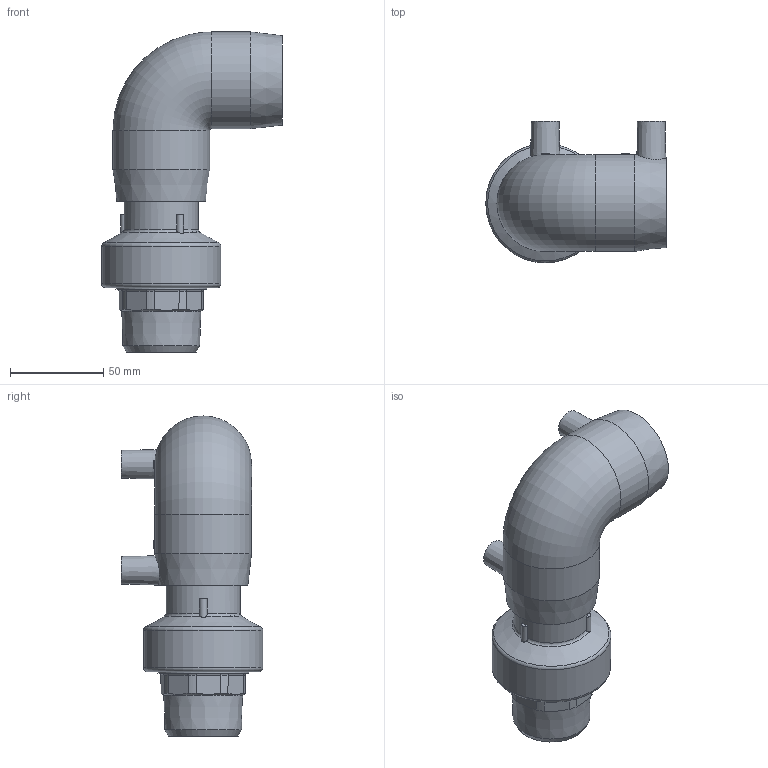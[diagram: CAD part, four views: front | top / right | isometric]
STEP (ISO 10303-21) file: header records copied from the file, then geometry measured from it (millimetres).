
FILE_DESCRIPTION(/* description */ ('Unknown'),/* implementation_level */ '2;1');
FILE_NAME(/* name */ 'GE9TMP040C',/* time_stamp */ '2021-03-02T12:21:58+01:00',/* author */ ('Unknown'),/* organization */ ('Unknown'),/* preprocessor_version */ 'ST-DEVELOPER v16.7',/* originating_system */ 'Solid Edge',/* authorisation */ 'Unknown');
FILE_SCHEMA (('AUTOMOTIVE_DESIGN {1 0 10303 214 3 1 1}'));
Length unit declared in the file: millimetre
Products named in the file (5): GE9TMP040C; GE9P040C; RTOMP040C; Parte PE 040; IOM040C
Assembly tree (4 placements, depth 3):
  GE9TMP040C
    GE9P040C
    RTOMP040C
      Parte PE 040
      IOM040C
Bounding box: 97 x 76 x 172 mm (x, y, z)
Volume: 216774.4 mm3; surface area: 86963.5 mm2
Topology: 3 solids, 3 shells, 528 faces, 1355 edges, 845 vertices
Faces by surface type: cylinder 223, plane 111, bspline 87, cone 69, torus 28, sphere 10
Full cylindrical faces by diameter (mm): 4 x4, 10 x2, 32.6 x1, 33.5 x1, 38 x2, 40 x3, 41.7 x1, 42 x2, 49 x1, 49.5 x2, 52 x2, 54.5 x4, 64 x1
Entity records: 20201 total; most frequent: CARTESIAN_POINT 6842, ORIENTED_EDGE 2540, DIRECTION 2190, EDGE_CURVE 1270, AXIS2_PLACEMENT_3D 977, VERTEX_POINT 819, EDGE_LOOP 605, FACE_BOUND 605
